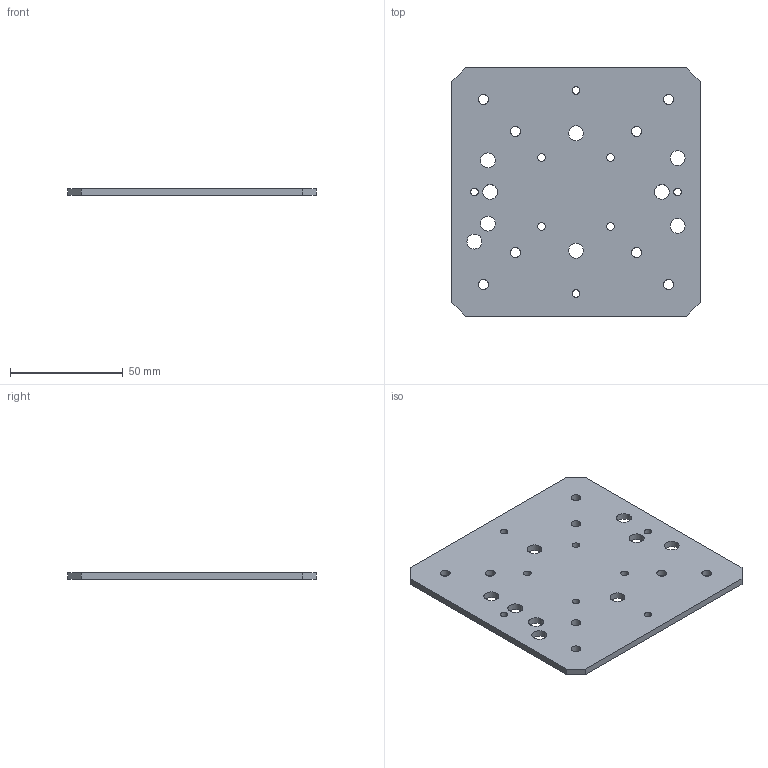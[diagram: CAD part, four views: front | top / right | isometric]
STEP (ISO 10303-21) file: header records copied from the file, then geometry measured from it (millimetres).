
FILE_DESCRIPTION(('FreeCAD Model'),'2;1');
FILE_NAME('Open CASCADE Shape Model','2026-10-26T11:51:14',('FreeCAD'),( 'FreeCAD'),'Open CASCADE STEP processor 7.8','FreeCAD','Unknown');
FILE_SCHEMA(('AUTOMOTIVE_DESIGN { 1 0 10303 214 1 1 1 1 }'));
Length unit declared in the file: millimetre
Products named in the file (1): Open CASCADE STEP translator 7.8 1
Bounding box: 110 x 110 x 3 mm (x, y, z)
Volume: 34577.4 mm3; surface area: 25477.4 mm2
Topology: 1 solids, 1 shells, 35 faces, 99 edges, 66 vertices
Faces by surface type: cylinder 25, plane 10
Full cylindrical faces by diameter (mm): 3.4 x8, 4.4 x8, 6.6 x9
Entity records: 1273 total; most frequent: DIRECTION 221, CARTESIAN_POINT 201, ORIENTED_EDGE 198, EDGE_CURVE 99, AXIS2_PLACEMENT_3D 86, FACE_BOUND 85, EDGE_LOOP 85, VERTEX_POINT 66
